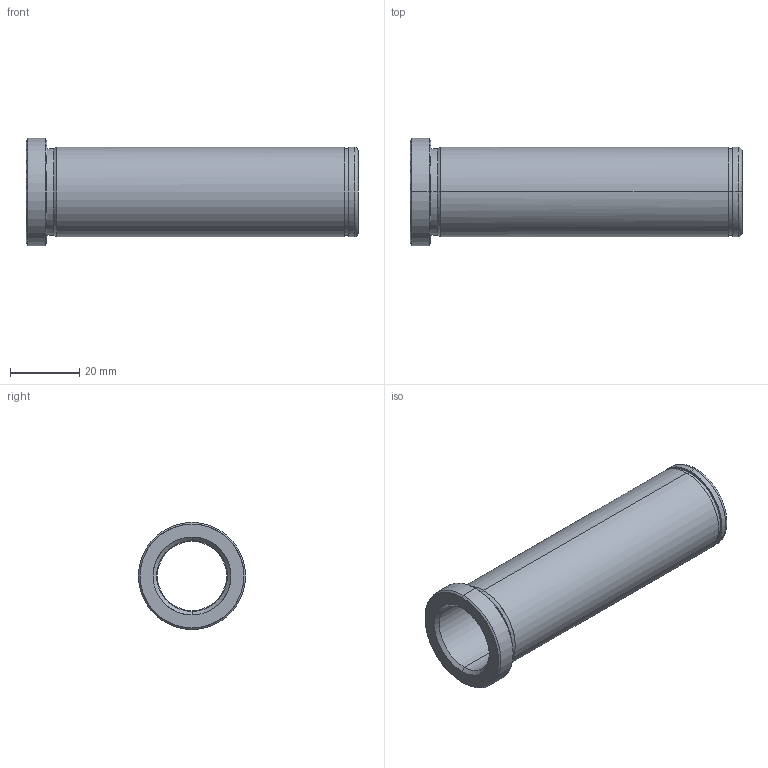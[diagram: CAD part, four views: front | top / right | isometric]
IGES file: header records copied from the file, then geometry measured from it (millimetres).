
Start section: START RECORD GO HERE.
Global section: file name: 553-20X96.igs; native system: DASSAULT SYSTEMES CATIA V5 R20 - www.3ds.com; preprocessor: CATIA Version 5 Release 20 ; author: Utente; organization: NB04-ASUS; date: 20210523.195752; units: millimetre
Bounding box: 96 x 31 x 31 mm (x, y, z)
Surface area: 14861.7 mm2 (no closed solid volume)
Topology: 0 solids, 0 shells, 32 faces, 204 edges, 204 vertices
Faces by surface type: revolution 26, plane 6
